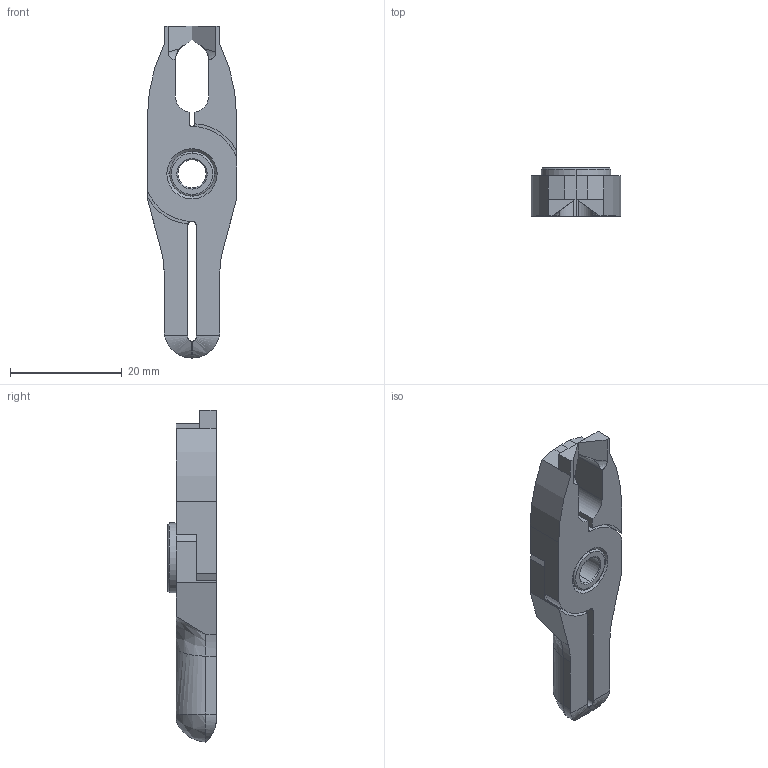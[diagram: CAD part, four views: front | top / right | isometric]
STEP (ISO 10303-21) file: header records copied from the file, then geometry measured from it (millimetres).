
FILE_DESCRIPTION (( 'STEP AP214' ), '1' );
FILE_NAME ('NY10AD.STEP', '2019-11-28T03:50:26', ( '微软用户' ), ( '微软中国' ), 'SwSTEP 2.0', 'SolidWorks 2016', '' );
FILE_SCHEMA (( 'AUTOMOTIVE_DESIGN' ));
Length unit declared in the file: millimetre
Products named in the file (4): BR2; BR1; BS; NY10AD
Assembly tree (3 placements, depth 2):
  NY10AD
    BS
    BR1
    BR2
Bounding box: 16 x 8.7 x 59.5 mm (x, y, z)
Volume: 4161.1 mm3; surface area: 4037.8 mm2
Topology: 3 solids, 3 shells, 123 faces, 315 edges, 199 vertices
Faces by surface type: plane 43, cylinder 30, bspline 24, cone 22, torus 4
Entity records: 4179 total; most frequent: CARTESIAN_POINT 1225, ORIENTED_EDGE 622, DIRECTION 547, EDGE_CURVE 311, VERTEX_POINT 199, AXIS2_PLACEMENT_3D 195, LINE 157, VECTOR 157
